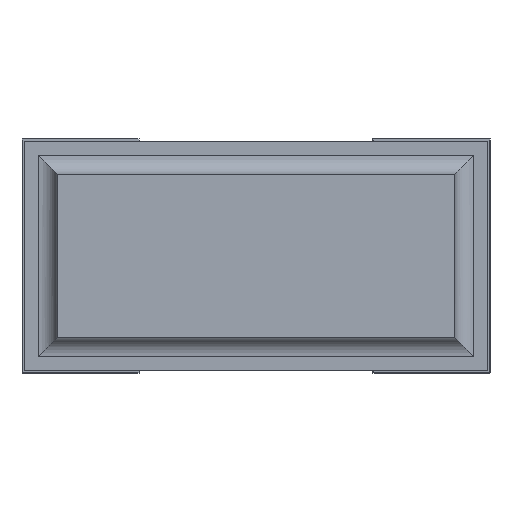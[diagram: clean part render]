
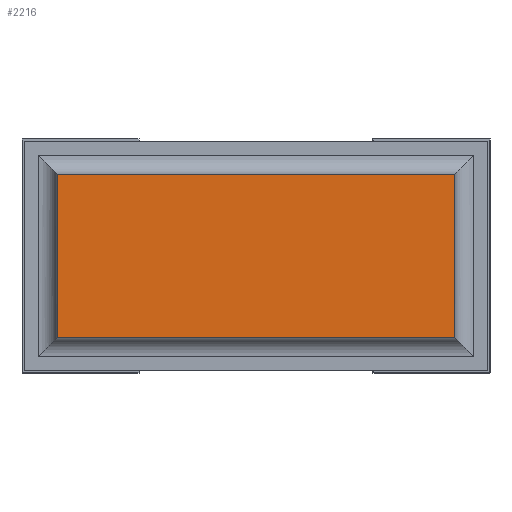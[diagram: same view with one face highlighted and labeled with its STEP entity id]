
A CAD part, front view. The second image highlights one B-rep face of the part: STEP entity #2216.
In plain terms, the highlighted planar face has unit normal (0, -1, 0).
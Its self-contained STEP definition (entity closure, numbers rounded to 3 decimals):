
#142=FACE_OUTER_BOUND('',#267,.T.);
#267=EDGE_LOOP('',(#1703,#1704,#1705,#1706));
#451=LINE('',#3346,#731);
#455=LINE('',#3360,#735);
#464=LINE('',#3376,#744);
#465=LINE('',#3378,#745);
#731=VECTOR('',#2713,10.);
#735=VECTOR('',#2725,10.);
#744=VECTOR('',#2740,10.);
#745=VECTOR('',#2743,10.);
#987=VERTEX_POINT('',#3342);
#988=VERTEX_POINT('',#3344);
#993=VERTEX_POINT('',#3357);
#994=VERTEX_POINT('',#3359);
#1237=EDGE_CURVE('',#987,#988,#451,.T.);
#1243=EDGE_CURVE('',#993,#994,#455,.T.);
#1252=EDGE_CURVE('',#987,#993,#464,.T.);
#1253=EDGE_CURVE('',#994,#988,#465,.T.);
#1703=ORIENTED_EDGE('',*,*,#1243,.F.);
#1704=ORIENTED_EDGE('',*,*,#1252,.F.);
#1705=ORIENTED_EDGE('',*,*,#1237,.T.);
#1706=ORIENTED_EDGE('',*,*,#1253,.F.);
#2109=PLANE('',#2384);
#2216=ADVANCED_FACE('',(#142),#2109,.T.);
#2384=AXIS2_PLACEMENT_3D('',#3377,#2741,#2742);
#2713=DIRECTION('',(0.,0.,-1.));
#2725=DIRECTION('',(0.,0.,-1.));
#2740=DIRECTION('',(1.,0.,0.));
#2741=DIRECTION('center_axis',(0.,-1.,0.));
#2742=DIRECTION('ref_axis',(0.,0.,-1.));
#2743=DIRECTION('',(-1.,0.,0.));
#3342=CARTESIAN_POINT('',(0.075,0.,0.425));
#3344=CARTESIAN_POINT('',(0.075,0.,0.075));
#3346=CARTESIAN_POINT('',(0.075,0.,0.425));
#3357=CARTESIAN_POINT('',(0.925,0.,0.425));
#3359=CARTESIAN_POINT('',(0.925,0.,0.075));
#3360=CARTESIAN_POINT('',(0.925,0.,0.425));
#3376=CARTESIAN_POINT('',(0.075,0.,0.425));
#3377=CARTESIAN_POINT('Origin',(0.926,0.,0.25));
#3378=CARTESIAN_POINT('',(0.925,0.,0.075));
